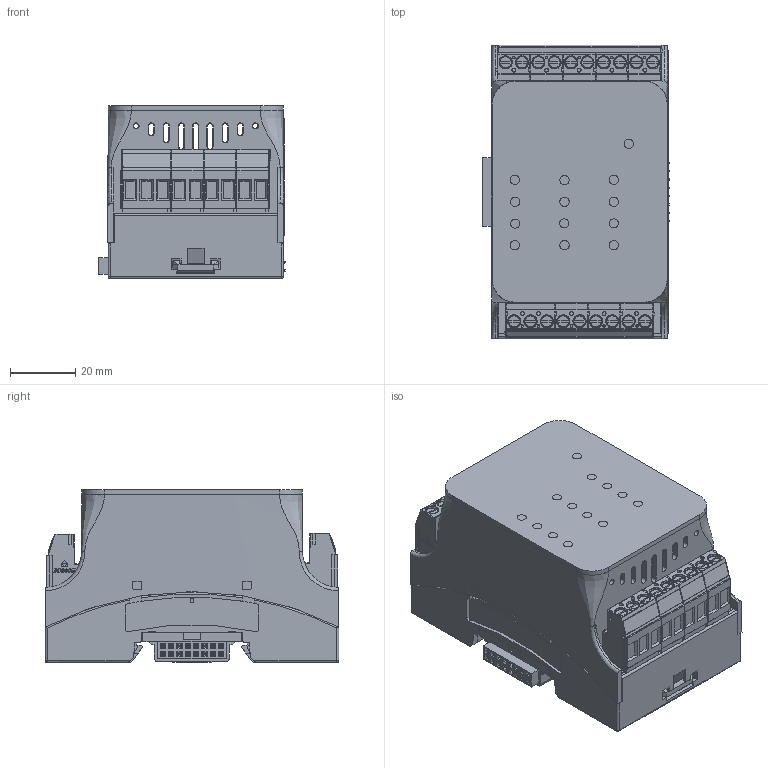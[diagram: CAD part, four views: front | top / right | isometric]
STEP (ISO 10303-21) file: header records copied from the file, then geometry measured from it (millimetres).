
FILE_DESCRIPTION(/* description */ (''),/* implementation_level */ '2;1');
FILE_NAME(/* name */ 'D:\WorkIMT\Project IMT\ИРИС-DIN\v2\!base\3D от Максима\MT.IRIS-DIN.8DI4DO.02.stp',/* time_stamp */ '2026-08-31T11:42:27+03:00',/* author */ ('admin'),/* organization */ (''),/* preprocessor_version */ 'ST-DEVELOPER v17.2',/* originating_system */ 'Autodesk Inventor 2019',/* authorisation */ '');
FILE_SCHEMA (('AUTOMOTIVE_DESIGN { 1 0 10303 214 3 1 1 }'));
Products named in the file (1): MT.IRIS-DIN.8DI4DO.02 для сайта
Bounding box: 57.13 x 89.74 x 52.89 mm (x, y, z)
Volume: 69557.6 mm3; surface area: 75063.3 mm2
Topology: 1 solids, 52 shells, 7223 faces, 20007 edges, 12941 vertices
Faces by surface type: plane 6050, cylinder 606, bspline 228, cone 164, torus 100, sphere 75
Full cylindrical faces by diameter (mm): 1.2 x18, 4.05 x19
Entity records: 251947 total; most frequent: CARTESIAN_POINT 60986, ORIENTED_EDGE 39860, DIRECTION 35230, EDGE_CURVE 19930, LINE 16812, VECTOR 16812, VERTEX_POINT 12941, AXIS2_PLACEMENT_3D 9209
